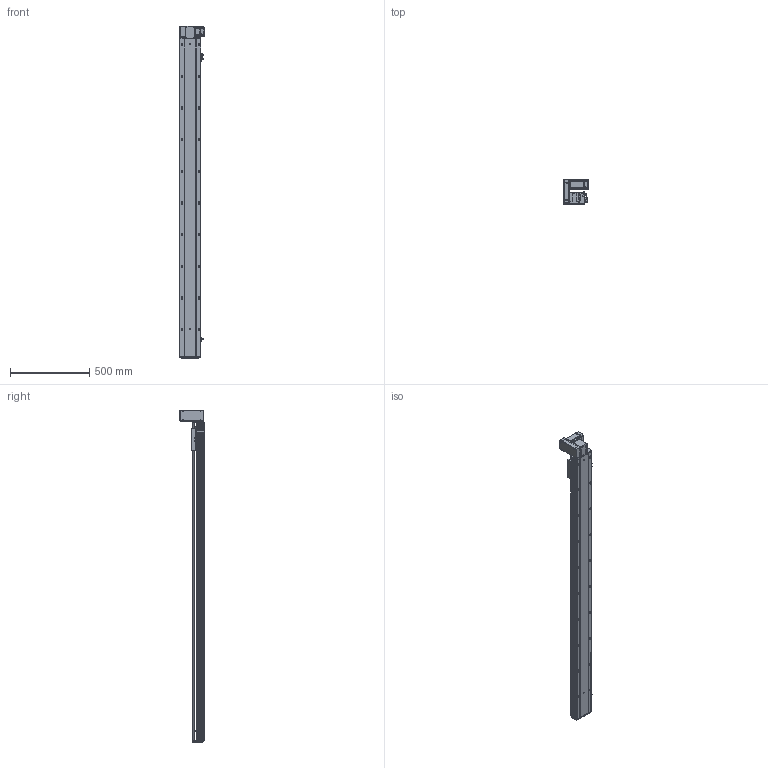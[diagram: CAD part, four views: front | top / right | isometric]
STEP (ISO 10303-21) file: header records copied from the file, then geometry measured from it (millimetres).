
FILE_DESCRIPTION (( 'STEP AP203' ), '1' );
FILE_NAME ('RY140-T-300-UL.SLDASM_1750.step', '2021-03-01T07:44:55', ( '盈信电脑' ), ( '东莞市道滘镇水果街19号' ), 'SwSTEP 2.0', 'SolidWorks 2012', '' );
FILE_SCHEMA (( 'CONFIG_CONTROL_DESIGN' ));
Length unit declared in the file: millimetre
Products named in the file (18): RY140-T-300-UL.SLDASM_1750; RY140-T翋肮謫裔啣; RY140-T萇儂欶; 滅袉蝶18-10; 15; 侂狟400W侜督萇儂; RY120-T主同步轮轴承压盖; RY120-T蹟翐M4; RY140-T翋肮祭謫盓傅釱; RY140-T萇儂假蚾啣; RY120-T肮祭湍揤踡輸1; 覜茼ん672; RY140綴裔啣; RY120外置感应片(140共用）; RY120-T肮祭湍揤踡輸2; RY140-T-300-DL倰第菁釱_1750; RY140肮祭謫臏賑輸; RY140-T-300-DL倰第奻裔啣_1750
Assembly tree (23 placements, depth 3):
  RY140-T-300-UL.SLDASM_1750
    RY140-T-300-DL倰第菁釱_1750
    RY140肮祭謫臏賑輸
    RY140-T-300-DL倰第奻裔啣_1750
    RY140綴裔啣
    覜茼ん672  x3
    RY120外置感应片(140共用）
    RY120-T肮祭湍揤踡輸2
    RY120-T肮祭湍揤踡輸1
    RY140-T翋肮祭謫盓傅釱
    RY140-T萇儂假蚾啣
    侂狟400W侜督萇儂
      15
    RY120-T主同步轮轴承压盖
    RY120-T蹟翐M4  x4
    RY140-T萇儂欶
    滅袉蝶18-10  x2
    RY140-T翋肮謫裔啣
Bounding box: 157 x 152.5 x 2096 mm (x, y, z)
Volume: 5791509.1 mm3; surface area: 2256706.2 mm2
Topology: 22 solids, 22 shells, 2823 faces, 7737 edges, 4928 vertices
Faces by surface type: plane 1381, cylinder 1068, cone 274, bspline 100
Entity records: 89123 total; most frequent: CARTESIAN_POINT 21613, ORIENTED_EDGE 13850, DIRECTION 13253, EDGE_CURVE 6925, VERTEX_POINT 4527, AXIS2_PLACEMENT_3D 4444, LINE 4365, VECTOR 4365
